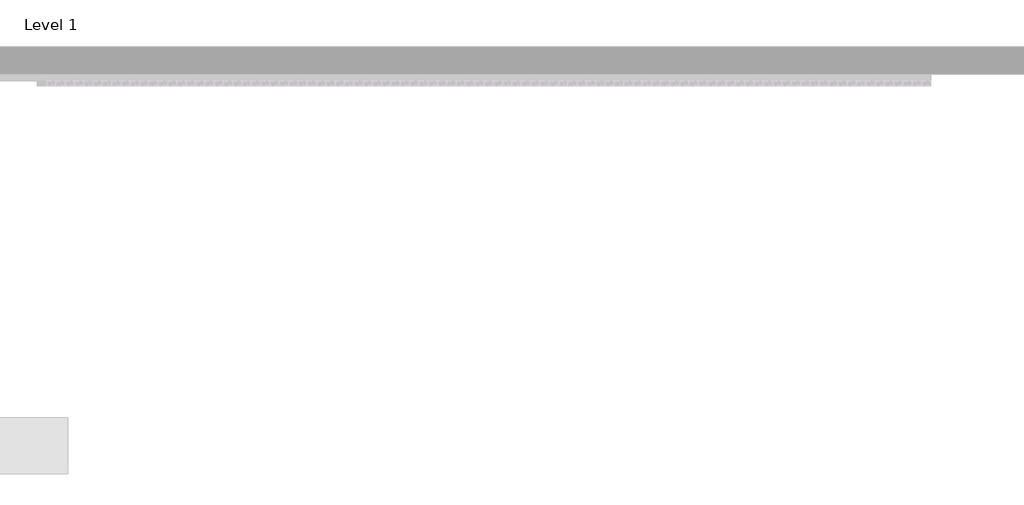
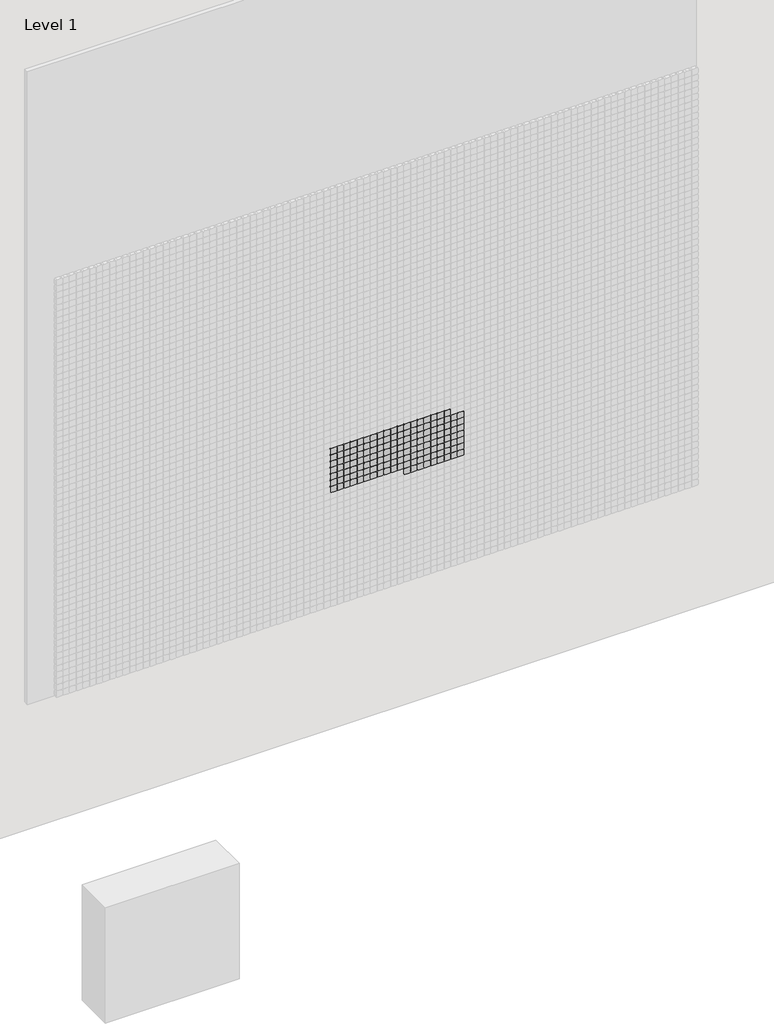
# One storey, part 45 of 71: 147 proxies.
"""IFC4 building model written with IfcOpenShell, lengths in millimetres."""

from ifc_helpers import new_model, si_unit, origin, place, context, project, spatial, transform, mapped, element, save
from components import generic_models_afde289c

model = new_model("IFC4")

# Units and contexts
model_context = context("Model", 3, world=origin())
ifc_project = project(units=[si_unit("LENGTHUNIT", "METRE", prefix="MILLI")], contexts=[model_context])

# Site, building, storey
site = spatial("IfcSite", under=ifc_project)
building = spatial("IfcBuilding", under=site)
storey = spatial("IfcBuildingStorey", under=building, Name="Level 1", Elevation=0.0)

# Proxies
placement = place(None, origin())
generic_models_shape = generic_models_afde289c(model_context)
element("IfcBuildingElementProxy", 1, Name="Pixel_M : Pixel_M", ObjectType="Pixel_M : Pixel_M", at=placement, inside=storey, context=model_context, shape_type="MappedRepresentation", body=[
    mapped(generic_models_shape, transform((7862.4280941, -75.0, 2216.3566215), x_axis=(1.0, 0.0, 0.0), y_axis=(0.0, 0.0, 1.0), z_axis=(0.0, -1.0, 0.0))),
])
element("IfcBuildingElementProxy", 2, Name="Pixel_M : Pixel_M", ObjectType="Pixel_M : Pixel_M", at=placement, inside=storey, context=model_context, shape_type="MappedRepresentation", body=[
    mapped(generic_models_shape, transform((7812.4280941, -75.0, 2216.3566215), x_axis=(1.0, 0.0, 0.0), y_axis=(0.0, 0.0, 1.0), z_axis=(0.0, -1.0, 0.0))),
])
element("IfcBuildingElementProxy", 3, Name="Pixel_M : Pixel_M", ObjectType="Pixel_M : Pixel_M", at=placement, inside=storey, context=model_context, shape_type="MappedRepresentation", body=[
    mapped(generic_models_shape, transform((7762.4280941, -75.0, 2216.3566215), x_axis=(1.0, 0.0, 0.0), y_axis=(0.0, 0.0, 1.0), z_axis=(0.0, -1.0, 0.0))),
])
element("IfcBuildingElementProxy", 4, Name="Pixel_M : Pixel_M", ObjectType="Pixel_M : Pixel_M", at=placement, inside=storey, context=model_context, shape_type="MappedRepresentation", body=[
    mapped(generic_models_shape, transform((7712.4280941, -75.0, 2216.3566215), x_axis=(1.0, 0.0, 0.0), y_axis=(0.0, 0.0, 1.0), z_axis=(0.0, -1.0, 0.0))),
])
element("IfcBuildingElementProxy", 5, Name="Pixel_M : Pixel_M", ObjectType="Pixel_M : Pixel_M", at=placement, inside=storey, context=model_context, shape_type="MappedRepresentation", body=[
    mapped(generic_models_shape, transform((7662.4280941, -75.0, 2216.3566215), x_axis=(1.0, 0.0, 0.0), y_axis=(0.0, 0.0, 1.0), z_axis=(0.0, -1.0, 0.0))),
])
element("IfcBuildingElementProxy", 6, Name="Pixel_M : Pixel_M", ObjectType="Pixel_M : Pixel_M", at=placement, inside=storey, context=model_context, shape_type="MappedRepresentation", body=[
    mapped(generic_models_shape, transform((7612.4280941, -75.0, 2216.3566215), x_axis=(1.0, 0.0, 0.0), y_axis=(0.0, 0.0, 1.0), z_axis=(0.0, -1.0, 0.0))),
])
element("IfcBuildingElementProxy", 7, Name="Pixel_M : Pixel_M", ObjectType="Pixel_M : Pixel_M", at=placement, inside=storey, context=model_context, shape_type="MappedRepresentation", body=[
    mapped(generic_models_shape, transform((7562.4280941, -75.0, 2216.3566215), x_axis=(1.0, 0.0, 0.0), y_axis=(0.0, 0.0, 1.0), z_axis=(0.0, -1.0, 0.0))),
])
element("IfcBuildingElementProxy", 8, Name="Pixel_M : Pixel_M", ObjectType="Pixel_M : Pixel_M", at=placement, inside=storey, context=model_context, shape_type="MappedRepresentation", body=[
    mapped(generic_models_shape, transform((7512.4280941, -75.0, 2216.3566215), x_axis=(1.0, 0.0, 0.0), y_axis=(0.0, 0.0, 1.0), z_axis=(0.0, -1.0, 0.0))),
])
element("IfcBuildingElementProxy", 9, Name="Pixel_M : Pixel_M", ObjectType="Pixel_M : Pixel_M", at=placement, inside=storey, context=model_context, shape_type="MappedRepresentation", body=[
    mapped(generic_models_shape, transform((7462.4280941, -75.0, 2216.3566215), x_axis=(1.0, 0.0, 0.0), y_axis=(0.0, 0.0, 1.0), z_axis=(0.0, -1.0, 0.0))),
])
element("IfcBuildingElementProxy", 10, Name="Pixel_M : Pixel_M", ObjectType="Pixel_M : Pixel_M", at=placement, inside=storey, context=model_context, shape_type="MappedRepresentation", body=[
    mapped(generic_models_shape, transform((7412.4280941, -75.0, 2216.3566215), x_axis=(1.0, 0.0, 0.0), y_axis=(0.0, 0.0, 1.0), z_axis=(0.0, -1.0, 0.0))),
])
element("IfcBuildingElementProxy", 11, Name="Pixel_M : Pixel_M", ObjectType="Pixel_M : Pixel_M", at=placement, inside=storey, context=model_context, shape_type="MappedRepresentation", body=[
    mapped(generic_models_shape, transform((7362.4280941, -75.0, 2216.3566215), x_axis=(1.0, 0.0, 0.0), y_axis=(0.0, 0.0, 1.0), z_axis=(0.0, -1.0, 0.0))),
])
element("IfcBuildingElementProxy", 12, Name="Pixel_M : Pixel_M", ObjectType="Pixel_M : Pixel_M", at=placement, inside=storey, context=model_context, shape_type="MappedRepresentation", body=[
    mapped(generic_models_shape, transform((7312.4280941, -75.0, 2216.3566215), x_axis=(1.0, 0.0, 0.0), y_axis=(0.0, 0.0, 1.0), z_axis=(0.0, -1.0, 0.0))),
])
element("IfcBuildingElementProxy", 13, Name="Pixel_M : Pixel_M", ObjectType="Pixel_M : Pixel_M", at=placement, inside=storey, context=model_context, shape_type="MappedRepresentation", body=[
    mapped(generic_models_shape, transform((7262.4280941, -75.0, 2216.3566215), x_axis=(1.0, 0.0, 0.0), y_axis=(0.0, 0.0, 1.0), z_axis=(0.0, -1.0, 0.0))),
])
element("IfcBuildingElementProxy", 14, Name="Pixel_M : Pixel_M", ObjectType="Pixel_M : Pixel_M", at=placement, inside=storey, context=model_context, shape_type="MappedRepresentation", body=[
    mapped(generic_models_shape, transform((7212.4280941, -75.0, 2216.3566215), x_axis=(1.0, 0.0, 0.0), y_axis=(0.0, 0.0, 1.0), z_axis=(0.0, -1.0, 0.0))),
])
element("IfcBuildingElementProxy", 15, Name="Pixel_M : Pixel_M", ObjectType="Pixel_M : Pixel_M", at=placement, inside=storey, context=model_context, shape_type="MappedRepresentation", body=[
    mapped(generic_models_shape, transform((7162.4280941, -75.0, 2216.3566215), x_axis=(1.0, 0.0, 0.0), y_axis=(0.0, 0.0, 1.0), z_axis=(0.0, -1.0, 0.0))),
])
element("IfcBuildingElementProxy", 16, Name="Pixel_M : Pixel_M", ObjectType="Pixel_M : Pixel_M", at=placement, inside=storey, context=model_context, shape_type="MappedRepresentation", body=[
    mapped(generic_models_shape, transform((7112.4280941, -75.0, 2216.3566215), x_axis=(1.0, 0.0, 0.0), y_axis=(0.0, 0.0, 1.0), z_axis=(0.0, -1.0, 0.0))),
])
element("IfcBuildingElementProxy", 17, Name="Pixel_M : Pixel_M", ObjectType="Pixel_M : Pixel_M", at=placement, inside=storey, context=model_context, shape_type="MappedRepresentation", body=[
    mapped(generic_models_shape, transform((7062.4280941, -75.0, 2216.3566215), x_axis=(1.0, 0.0, 0.0), y_axis=(0.0, 0.0, 1.0), z_axis=(0.0, -1.0, 0.0))),
])
element("IfcBuildingElementProxy", 18, Name="Pixel_M : Pixel_M", ObjectType="Pixel_M : Pixel_M", at=placement, inside=storey, context=model_context, shape_type="MappedRepresentation", body=[
    mapped(generic_models_shape, transform((7012.4280941, -75.0, 2216.3566215), x_axis=(1.0, 0.0, 0.0), y_axis=(0.0, 0.0, 1.0), z_axis=(0.0, -1.0, 0.0))),
])
element("IfcBuildingElementProxy", 19, Name="Pixel_M : Pixel_M", ObjectType="Pixel_M : Pixel_M", at=placement, inside=storey, context=model_context, shape_type="MappedRepresentation", body=[
    mapped(generic_models_shape, transform((7962.4280941, -75.0, 2166.3566215), x_axis=(1.0, 0.0, 0.0), y_axis=(0.0, 0.0, 1.0), z_axis=(0.0, -1.0, 0.0))),
])
element("IfcBuildingElementProxy", 20, Name="Pixel_M : Pixel_M", ObjectType="Pixel_M : Pixel_M", at=placement, inside=storey, context=model_context, shape_type="MappedRepresentation", body=[
    mapped(generic_models_shape, transform((7912.4280941, -75.0, 2166.3566215), x_axis=(1.0, 0.0, 0.0), y_axis=(0.0, 0.0, 1.0), z_axis=(0.0, -1.0, 0.0))),
])
element("IfcBuildingElementProxy", 21, Name="Pixel_M : Pixel_M", ObjectType="Pixel_M : Pixel_M", at=placement, inside=storey, context=model_context, shape_type="MappedRepresentation", body=[
    mapped(generic_models_shape, transform((7862.4280941, -75.0, 2166.3566215), x_axis=(1.0, 0.0, 0.0), y_axis=(0.0, 0.0, 1.0), z_axis=(0.0, -1.0, 0.0))),
])
element("IfcBuildingElementProxy", 22, Name="Pixel_M : Pixel_M", ObjectType="Pixel_M : Pixel_M", at=placement, inside=storey, context=model_context, shape_type="MappedRepresentation", body=[
    mapped(generic_models_shape, transform((7812.4280941, -75.0, 2166.3566215), x_axis=(1.0, 0.0, 0.0), y_axis=(0.0, 0.0, 1.0), z_axis=(0.0, -1.0, 0.0))),
])
element("IfcBuildingElementProxy", 23, Name="Pixel_M : Pixel_M", ObjectType="Pixel_M : Pixel_M", at=placement, inside=storey, context=model_context, shape_type="MappedRepresentation", body=[
    mapped(generic_models_shape, transform((7762.4280941, -75.0, 2166.3566215), x_axis=(1.0, 0.0, 0.0), y_axis=(0.0, 0.0, 1.0), z_axis=(0.0, -1.0, 0.0))),
])
element("IfcBuildingElementProxy", 24, Name="Pixel_M : Pixel_M", ObjectType="Pixel_M : Pixel_M", at=placement, inside=storey, context=model_context, shape_type="MappedRepresentation", body=[
    mapped(generic_models_shape, transform((7712.4280941, -75.0, 2166.3566215), x_axis=(1.0, 0.0, 0.0), y_axis=(0.0, 0.0, 1.0), z_axis=(0.0, -1.0, 0.0))),
])
element("IfcBuildingElementProxy", 25, Name="Pixel_M : Pixel_M", ObjectType="Pixel_M : Pixel_M", at=placement, inside=storey, context=model_context, shape_type="MappedRepresentation", body=[
    mapped(generic_models_shape, transform((7662.4280941, -75.0, 2166.3566215), x_axis=(1.0, 0.0, 0.0), y_axis=(0.0, 0.0, 1.0), z_axis=(0.0, -1.0, 0.0))),
])
element("IfcBuildingElementProxy", 26, Name="Pixel_M : Pixel_M", ObjectType="Pixel_M : Pixel_M", at=placement, inside=storey, context=model_context, shape_type="MappedRepresentation", body=[
    mapped(generic_models_shape, transform((7612.4280941, -75.0, 2166.3566215), x_axis=(1.0, 0.0, 0.0), y_axis=(0.0, 0.0, 1.0), z_axis=(0.0, -1.0, 0.0))),
])
element("IfcBuildingElementProxy", 27, Name="Pixel_M : Pixel_M", ObjectType="Pixel_M : Pixel_M", at=placement, inside=storey, context=model_context, shape_type="MappedRepresentation", body=[
    mapped(generic_models_shape, transform((7562.4280941, -75.0, 2166.3566215), x_axis=(1.0, 0.0, 0.0), y_axis=(0.0, 0.0, 1.0), z_axis=(0.0, -1.0, 0.0))),
])
element("IfcBuildingElementProxy", 28, Name="Pixel_M : Pixel_M", ObjectType="Pixel_M : Pixel_M", at=placement, inside=storey, context=model_context, shape_type="MappedRepresentation", body=[
    mapped(generic_models_shape, transform((7512.4280941, -75.0, 2166.3566215), x_axis=(1.0, 0.0, 0.0), y_axis=(0.0, 0.0, 1.0), z_axis=(0.0, -1.0, 0.0))),
])
element("IfcBuildingElementProxy", 29, Name="Pixel_M : Pixel_M", ObjectType="Pixel_M : Pixel_M", at=placement, inside=storey, context=model_context, shape_type="MappedRepresentation", body=[
    mapped(generic_models_shape, transform((7462.4280941, -75.0, 2166.3566215), x_axis=(1.0, 0.0, 0.0), y_axis=(0.0, 0.0, 1.0), z_axis=(0.0, -1.0, 0.0))),
])
element("IfcBuildingElementProxy", 30, Name="Pixel_M : Pixel_M", ObjectType="Pixel_M : Pixel_M", at=placement, inside=storey, context=model_context, shape_type="MappedRepresentation", body=[
    mapped(generic_models_shape, transform((7412.4280941, -75.0, 2166.3566215), x_axis=(1.0, 0.0, 0.0), y_axis=(0.0, 0.0, 1.0), z_axis=(0.0, -1.0, 0.0))),
])
element("IfcBuildingElementProxy", 31, Name="Pixel_M : Pixel_M", ObjectType="Pixel_M : Pixel_M", at=placement, inside=storey, context=model_context, shape_type="MappedRepresentation", body=[
    mapped(generic_models_shape, transform((7362.4280941, -75.0, 2166.3566215), x_axis=(1.0, 0.0, 0.0), y_axis=(0.0, 0.0, 1.0), z_axis=(0.0, -1.0, 0.0))),
])
element("IfcBuildingElementProxy", 32, Name="Pixel_M : Pixel_M", ObjectType="Pixel_M : Pixel_M", at=placement, inside=storey, context=model_context, shape_type="MappedRepresentation", body=[
    mapped(generic_models_shape, transform((7312.4280941, -75.0, 2166.3566215), x_axis=(1.0, 0.0, 0.0), y_axis=(0.0, 0.0, 1.0), z_axis=(0.0, -1.0, 0.0))),
])
element("IfcBuildingElementProxy", 33, Name="Pixel_M : Pixel_M", ObjectType="Pixel_M : Pixel_M", at=placement, inside=storey, context=model_context, shape_type="MappedRepresentation", body=[
    mapped(generic_models_shape, transform((7262.4280941, -75.0, 2166.3566215), x_axis=(1.0, 0.0, 0.0), y_axis=(0.0, 0.0, 1.0), z_axis=(0.0, -1.0, 0.0))),
])
element("IfcBuildingElementProxy", 34, Name="Pixel_M : Pixel_M", ObjectType="Pixel_M : Pixel_M", at=placement, inside=storey, context=model_context, shape_type="MappedRepresentation", body=[
    mapped(generic_models_shape, transform((7212.4280941, -75.0, 2166.3566215), x_axis=(1.0, 0.0, 0.0), y_axis=(0.0, 0.0, 1.0), z_axis=(0.0, -1.0, 0.0))),
])
element("IfcBuildingElementProxy", 35, Name="Pixel_M : Pixel_M", ObjectType="Pixel_M : Pixel_M", at=placement, inside=storey, context=model_context, shape_type="MappedRepresentation", body=[
    mapped(generic_models_shape, transform((7162.4280941, -75.0, 2166.3566215), x_axis=(1.0, 0.0, 0.0), y_axis=(0.0, 0.0, 1.0), z_axis=(0.0, -1.0, 0.0))),
])
element("IfcBuildingElementProxy", 36, Name="Pixel_M : Pixel_M", ObjectType="Pixel_M : Pixel_M", at=placement, inside=storey, context=model_context, shape_type="MappedRepresentation", body=[
    mapped(generic_models_shape, transform((7112.4280941, -75.0, 2166.3566215), x_axis=(1.0, 0.0, 0.0), y_axis=(0.0, 0.0, 1.0), z_axis=(0.0, -1.0, 0.0))),
])
element("IfcBuildingElementProxy", 37, Name="Pixel_M : Pixel_M", ObjectType="Pixel_M : Pixel_M", at=placement, inside=storey, context=model_context, shape_type="MappedRepresentation", body=[
    mapped(generic_models_shape, transform((7062.4280941, -75.0, 2166.3566215), x_axis=(1.0, 0.0, 0.0), y_axis=(0.0, 0.0, 1.0), z_axis=(0.0, -1.0, 0.0))),
])
element("IfcBuildingElementProxy", 38, Name="Pixel_M : Pixel_M", ObjectType="Pixel_M : Pixel_M", at=placement, inside=storey, context=model_context, shape_type="MappedRepresentation", body=[
    mapped(generic_models_shape, transform((7012.4280941, -75.0, 2166.3566215), x_axis=(1.0, 0.0, 0.0), y_axis=(0.0, 0.0, 1.0), z_axis=(0.0, -1.0, 0.0))),
])
element("IfcBuildingElementProxy", 39, Name="Pixel_M : Pixel_M", ObjectType="Pixel_M : Pixel_M", at=placement, inside=storey, context=model_context, shape_type="MappedRepresentation", body=[
    mapped(generic_models_shape, transform((7962.4280941, -75.0, 2116.3566215), x_axis=(1.0, 0.0, 0.0), y_axis=(0.0, 0.0, 1.0), z_axis=(0.0, -1.0, 0.0))),
])
element("IfcBuildingElementProxy", 40, Name="Pixel_M : Pixel_M", ObjectType="Pixel_M : Pixel_M", at=placement, inside=storey, context=model_context, shape_type="MappedRepresentation", body=[
    mapped(generic_models_shape, transform((7912.4280941, -75.0, 2116.3566215), x_axis=(1.0, 0.0, 0.0), y_axis=(0.0, 0.0, 1.0), z_axis=(0.0, -1.0, 0.0))),
])
element("IfcBuildingElementProxy", 41, Name="Pixel_M : Pixel_M", ObjectType="Pixel_M : Pixel_M", at=placement, inside=storey, context=model_context, shape_type="MappedRepresentation", body=[
    mapped(generic_models_shape, transform((7862.4280941, -75.0, 2116.3566215), x_axis=(1.0, 0.0, 0.0), y_axis=(0.0, 0.0, 1.0), z_axis=(0.0, -1.0, 0.0))),
])
element("IfcBuildingElementProxy", 42, Name="Pixel_M : Pixel_M", ObjectType="Pixel_M : Pixel_M", at=placement, inside=storey, context=model_context, shape_type="MappedRepresentation", body=[
    mapped(generic_models_shape, transform((7812.4280941, -75.0, 2116.3566215), x_axis=(1.0, 0.0, 0.0), y_axis=(0.0, 0.0, 1.0), z_axis=(0.0, -1.0, 0.0))),
])
element("IfcBuildingElementProxy", 43, Name="Pixel_M : Pixel_M", ObjectType="Pixel_M : Pixel_M", at=placement, inside=storey, context=model_context, shape_type="MappedRepresentation", body=[
    mapped(generic_models_shape, transform((7762.4280941, -75.0, 2116.3566215), x_axis=(1.0, 0.0, 0.0), y_axis=(0.0, 0.0, 1.0), z_axis=(0.0, -1.0, 0.0))),
])
element("IfcBuildingElementProxy", 44, Name="Pixel_M : Pixel_M", ObjectType="Pixel_M : Pixel_M", at=placement, inside=storey, context=model_context, shape_type="MappedRepresentation", body=[
    mapped(generic_models_shape, transform((7712.4280941, -75.0, 2116.3566215), x_axis=(1.0, 0.0, 0.0), y_axis=(0.0, 0.0, 1.0), z_axis=(0.0, -1.0, 0.0))),
])
element("IfcBuildingElementProxy", 45, Name="Pixel_M : Pixel_M", ObjectType="Pixel_M : Pixel_M", at=placement, inside=storey, context=model_context, shape_type="MappedRepresentation", body=[
    mapped(generic_models_shape, transform((7662.4280941, -75.0, 2116.3566215), x_axis=(1.0, 0.0, 0.0), y_axis=(0.0, 0.0, 1.0), z_axis=(0.0, -1.0, 0.0))),
])
element("IfcBuildingElementProxy", 46, Name="Pixel_M : Pixel_M", ObjectType="Pixel_M : Pixel_M", at=placement, inside=storey, context=model_context, shape_type="MappedRepresentation", body=[
    mapped(generic_models_shape, transform((7612.4280941, -75.0, 2116.3566215), x_axis=(1.0, 0.0, 0.0), y_axis=(0.0, 0.0, 1.0), z_axis=(0.0, -1.0, 0.0))),
])
element("IfcBuildingElementProxy", 47, Name="Pixel_M : Pixel_M", ObjectType="Pixel_M : Pixel_M", at=placement, inside=storey, context=model_context, shape_type="MappedRepresentation", body=[
    mapped(generic_models_shape, transform((7562.4280941, -75.0, 2116.3566215), x_axis=(1.0, 0.0, 0.0), y_axis=(0.0, 0.0, 1.0), z_axis=(0.0, -1.0, 0.0))),
])
element("IfcBuildingElementProxy", 48, Name="Pixel_M : Pixel_M", ObjectType="Pixel_M : Pixel_M", at=placement, inside=storey, context=model_context, shape_type="MappedRepresentation", body=[
    mapped(generic_models_shape, transform((7512.4280941, -75.0, 2116.3566215), x_axis=(1.0, 0.0, 0.0), y_axis=(0.0, 0.0, 1.0), z_axis=(0.0, -1.0, 0.0))),
])
element("IfcBuildingElementProxy", 49, Name="Pixel_M : Pixel_M", ObjectType="Pixel_M : Pixel_M", at=placement, inside=storey, context=model_context, shape_type="MappedRepresentation", body=[
    mapped(generic_models_shape, transform((7462.4280941, -75.0, 2116.3566215), x_axis=(1.0, 0.0, 0.0), y_axis=(0.0, 0.0, 1.0), z_axis=(0.0, -1.0, 0.0))),
])
element("IfcBuildingElementProxy", 50, Name="Pixel_M : Pixel_M", ObjectType="Pixel_M : Pixel_M", at=placement, inside=storey, context=model_context, shape_type="MappedRepresentation", body=[
    mapped(generic_models_shape, transform((7412.4280941, -75.0, 2116.3566215), x_axis=(1.0, 0.0, 0.0), y_axis=(0.0, 0.0, 1.0), z_axis=(0.0, -1.0, 0.0))),
])
element("IfcBuildingElementProxy", 51, Name="Pixel_M : Pixel_M", ObjectType="Pixel_M : Pixel_M", at=placement, inside=storey, context=model_context, shape_type="MappedRepresentation", body=[
    mapped(generic_models_shape, transform((7362.4280941, -75.0, 2116.3566215), x_axis=(1.0, 0.0, 0.0), y_axis=(0.0, 0.0, 1.0), z_axis=(0.0, -1.0, 0.0))),
])
element("IfcBuildingElementProxy", 52, Name="Pixel_M : Pixel_M", ObjectType="Pixel_M : Pixel_M", at=placement, inside=storey, context=model_context, shape_type="MappedRepresentation", body=[
    mapped(generic_models_shape, transform((7312.4280941, -75.0, 2116.3566215), x_axis=(1.0, 0.0, 0.0), y_axis=(0.0, 0.0, 1.0), z_axis=(0.0, -1.0, 0.0))),
])
element("IfcBuildingElementProxy", 53, Name="Pixel_M : Pixel_M", ObjectType="Pixel_M : Pixel_M", at=placement, inside=storey, context=model_context, shape_type="MappedRepresentation", body=[
    mapped(generic_models_shape, transform((7262.4280941, -75.0, 2116.3566215), x_axis=(1.0, 0.0, 0.0), y_axis=(0.0, 0.0, 1.0), z_axis=(0.0, -1.0, 0.0))),
])
element("IfcBuildingElementProxy", 54, Name="Pixel_M : Pixel_M", ObjectType="Pixel_M : Pixel_M", at=placement, inside=storey, context=model_context, shape_type="MappedRepresentation", body=[
    mapped(generic_models_shape, transform((7212.4280941, -75.0, 2116.3566215), x_axis=(1.0, 0.0, 0.0), y_axis=(0.0, 0.0, 1.0), z_axis=(0.0, -1.0, 0.0))),
])
element("IfcBuildingElementProxy", 55, Name="Pixel_M : Pixel_M", ObjectType="Pixel_M : Pixel_M", at=placement, inside=storey, context=model_context, shape_type="MappedRepresentation", body=[
    mapped(generic_models_shape, transform((7162.4280941, -75.0, 2116.3566215), x_axis=(1.0, 0.0, 0.0), y_axis=(0.0, 0.0, 1.0), z_axis=(0.0, -1.0, 0.0))),
])
element("IfcBuildingElementProxy", 56, Name="Pixel_M : Pixel_M", ObjectType="Pixel_M : Pixel_M", at=placement, inside=storey, context=model_context, shape_type="MappedRepresentation", body=[
    mapped(generic_models_shape, transform((7112.4280941, -75.0, 2116.3566215), x_axis=(1.0, 0.0, 0.0), y_axis=(0.0, 0.0, 1.0), z_axis=(0.0, -1.0, 0.0))),
])
element("IfcBuildingElementProxy", 57, Name="Pixel_M : Pixel_M", ObjectType="Pixel_M : Pixel_M", at=placement, inside=storey, context=model_context, shape_type="MappedRepresentation", body=[
    mapped(generic_models_shape, transform((7062.4280941, -75.0, 2116.3566215), x_axis=(1.0, 0.0, 0.0), y_axis=(0.0, 0.0, 1.0), z_axis=(0.0, -1.0, 0.0))),
])
element("IfcBuildingElementProxy", 58, Name="Pixel_M : Pixel_M", ObjectType="Pixel_M : Pixel_M", at=placement, inside=storey, context=model_context, shape_type="MappedRepresentation", body=[
    mapped(generic_models_shape, transform((7012.4280941, -75.0, 2116.3566215), x_axis=(1.0, 0.0, 0.0), y_axis=(0.0, 0.0, 1.0), z_axis=(0.0, -1.0, 0.0))),
])
element("IfcBuildingElementProxy", 59, Name="Pixel_M : Pixel_M", ObjectType="Pixel_M : Pixel_M", at=placement, inside=storey, context=model_context, shape_type="MappedRepresentation", body=[
    mapped(generic_models_shape, transform((7962.4280941, -75.0, 2066.3566215), x_axis=(1.0, 0.0, 0.0), y_axis=(0.0, 0.0, 1.0), z_axis=(0.0, -1.0, 0.0))),
])
element("IfcBuildingElementProxy", 60, Name="Pixel_M : Pixel_M", ObjectType="Pixel_M : Pixel_M", at=placement, inside=storey, context=model_context, shape_type="MappedRepresentation", body=[
    mapped(generic_models_shape, transform((7912.4280941, -75.0, 2066.3566215), x_axis=(1.0, 0.0, 0.0), y_axis=(0.0, 0.0, 1.0), z_axis=(0.0, -1.0, 0.0))),
])
element("IfcBuildingElementProxy", 61, Name="Pixel_M : Pixel_M", ObjectType="Pixel_M : Pixel_M", at=placement, inside=storey, context=model_context, shape_type="MappedRepresentation", body=[
    mapped(generic_models_shape, transform((7862.4280941, -75.0, 2066.3566215), x_axis=(1.0, 0.0, 0.0), y_axis=(0.0, 0.0, 1.0), z_axis=(0.0, -1.0, 0.0))),
])
element("IfcBuildingElementProxy", 62, Name="Pixel_M : Pixel_M", ObjectType="Pixel_M : Pixel_M", at=placement, inside=storey, context=model_context, shape_type="MappedRepresentation", body=[
    mapped(generic_models_shape, transform((7812.4280941, -75.0, 2066.3566215), x_axis=(1.0, 0.0, 0.0), y_axis=(0.0, 0.0, 1.0), z_axis=(0.0, -1.0, 0.0))),
])
element("IfcBuildingElementProxy", 63, Name="Pixel_M : Pixel_M", ObjectType="Pixel_M : Pixel_M", at=placement, inside=storey, context=model_context, shape_type="MappedRepresentation", body=[
    mapped(generic_models_shape, transform((7762.4280941, -75.0, 2066.3566215), x_axis=(1.0, 0.0, 0.0), y_axis=(0.0, 0.0, 1.0), z_axis=(0.0, -1.0, 0.0))),
])
element("IfcBuildingElementProxy", 64, Name="Pixel_M : Pixel_M", ObjectType="Pixel_M : Pixel_M", at=placement, inside=storey, context=model_context, shape_type="MappedRepresentation", body=[
    mapped(generic_models_shape, transform((7712.4280941, -75.0, 2066.3566215), x_axis=(1.0, 0.0, 0.0), y_axis=(0.0, 0.0, 1.0), z_axis=(0.0, -1.0, 0.0))),
])
element("IfcBuildingElementProxy", 65, Name="Pixel_M : Pixel_M", ObjectType="Pixel_M : Pixel_M", at=placement, inside=storey, context=model_context, shape_type="MappedRepresentation", body=[
    mapped(generic_models_shape, transform((7662.4280941, -75.0, 2066.3566215), x_axis=(1.0, 0.0, 0.0), y_axis=(0.0, 0.0, 1.0), z_axis=(0.0, -1.0, 0.0))),
])
element("IfcBuildingElementProxy", 66, Name="Pixel_M : Pixel_M", ObjectType="Pixel_M : Pixel_M", at=placement, inside=storey, context=model_context, shape_type="MappedRepresentation", body=[
    mapped(generic_models_shape, transform((7612.4280941, -75.0, 2066.3566215), x_axis=(1.0, 0.0, 0.0), y_axis=(0.0, 0.0, 1.0), z_axis=(0.0, -1.0, 0.0))),
])
element("IfcBuildingElementProxy", 67, Name="Pixel_M : Pixel_M", ObjectType="Pixel_M : Pixel_M", at=placement, inside=storey, context=model_context, shape_type="MappedRepresentation", body=[
    mapped(generic_models_shape, transform((7562.4280941, -75.0, 2066.3566215), x_axis=(1.0, 0.0, 0.0), y_axis=(0.0, 0.0, 1.0), z_axis=(0.0, -1.0, 0.0))),
])
element("IfcBuildingElementProxy", 68, Name="Pixel_M : Pixel_M", ObjectType="Pixel_M : Pixel_M", at=placement, inside=storey, context=model_context, shape_type="MappedRepresentation", body=[
    mapped(generic_models_shape, transform((7512.4280941, -75.0, 2066.3566215), x_axis=(1.0, 0.0, 0.0), y_axis=(0.0, 0.0, 1.0), z_axis=(0.0, -1.0, 0.0))),
])
element("IfcBuildingElementProxy", 69, Name="Pixel_M : Pixel_M", ObjectType="Pixel_M : Pixel_M", at=placement, inside=storey, context=model_context, shape_type="MappedRepresentation", body=[
    mapped(generic_models_shape, transform((7462.4280941, -75.0, 2066.3566215), x_axis=(1.0, 0.0, 0.0), y_axis=(0.0, 0.0, 1.0), z_axis=(0.0, -1.0, 0.0))),
])
element("IfcBuildingElementProxy", 70, Name="Pixel_M : Pixel_M", ObjectType="Pixel_M : Pixel_M", at=placement, inside=storey, context=model_context, shape_type="MappedRepresentation", body=[
    mapped(generic_models_shape, transform((7412.4280941, -75.0, 2066.3566215), x_axis=(1.0, 0.0, 0.0), y_axis=(0.0, 0.0, 1.0), z_axis=(0.0, -1.0, 0.0))),
])
element("IfcBuildingElementProxy", 71, Name="Pixel_M : Pixel_M", ObjectType="Pixel_M : Pixel_M", at=placement, inside=storey, context=model_context, shape_type="MappedRepresentation", body=[
    mapped(generic_models_shape, transform((7362.4280941, -75.0, 2066.3566215), x_axis=(1.0, 0.0, 0.0), y_axis=(0.0, 0.0, 1.0), z_axis=(0.0, -1.0, 0.0))),
])
element("IfcBuildingElementProxy", 72, Name="Pixel_M : Pixel_M", ObjectType="Pixel_M : Pixel_M", at=placement, inside=storey, context=model_context, shape_type="MappedRepresentation", body=[
    mapped(generic_models_shape, transform((7312.4280941, -75.0, 2066.3566215), x_axis=(1.0, 0.0, 0.0), y_axis=(0.0, 0.0, 1.0), z_axis=(0.0, -1.0, 0.0))),
])
element("IfcBuildingElementProxy", 73, Name="Pixel_M : Pixel_M", ObjectType="Pixel_M : Pixel_M", at=placement, inside=storey, context=model_context, shape_type="MappedRepresentation", body=[
    mapped(generic_models_shape, transform((7262.4280941, -75.0, 2066.3566215), x_axis=(1.0, 0.0, 0.0), y_axis=(0.0, 0.0, 1.0), z_axis=(0.0, -1.0, 0.0))),
])
element("IfcBuildingElementProxy", 74, Name="Pixel_M : Pixel_M", ObjectType="Pixel_M : Pixel_M", at=placement, inside=storey, context=model_context, shape_type="MappedRepresentation", body=[
    mapped(generic_models_shape, transform((7212.4280941, -75.0, 2066.3566215), x_axis=(1.0, 0.0, 0.0), y_axis=(0.0, 0.0, 1.0), z_axis=(0.0, -1.0, 0.0))),
])
element("IfcBuildingElementProxy", 75, Name="Pixel_M : Pixel_M", ObjectType="Pixel_M : Pixel_M", at=placement, inside=storey, context=model_context, shape_type="MappedRepresentation", body=[
    mapped(generic_models_shape, transform((7162.4280941, -75.0, 2066.3566215), x_axis=(1.0, 0.0, 0.0), y_axis=(0.0, 0.0, 1.0), z_axis=(0.0, -1.0, 0.0))),
])
element("IfcBuildingElementProxy", 76, Name="Pixel_M : Pixel_M", ObjectType="Pixel_M : Pixel_M", at=placement, inside=storey, context=model_context, shape_type="MappedRepresentation", body=[
    mapped(generic_models_shape, transform((7112.4280941, -75.0, 2066.3566215), x_axis=(1.0, 0.0, 0.0), y_axis=(0.0, 0.0, 1.0), z_axis=(0.0, -1.0, 0.0))),
])
element("IfcBuildingElementProxy", 77, Name="Pixel_M : Pixel_M", ObjectType="Pixel_M : Pixel_M", at=placement, inside=storey, context=model_context, shape_type="MappedRepresentation", body=[
    mapped(generic_models_shape, transform((7062.4280941, -75.0, 2066.3566215), x_axis=(1.0, 0.0, 0.0), y_axis=(0.0, 0.0, 1.0), z_axis=(0.0, -1.0, 0.0))),
])
element("IfcBuildingElementProxy", 78, Name="Pixel_M : Pixel_M", ObjectType="Pixel_M : Pixel_M", at=placement, inside=storey, context=model_context, shape_type="MappedRepresentation", body=[
    mapped(generic_models_shape, transform((7012.4280941, -75.0, 2066.3566215), x_axis=(1.0, 0.0, 0.0), y_axis=(0.0, 0.0, 1.0), z_axis=(0.0, -1.0, 0.0))),
])
element("IfcBuildingElementProxy", 79, Name="Pixel_M : Pixel_M", ObjectType="Pixel_M : Pixel_M", at=placement, inside=storey, context=model_context, shape_type="MappedRepresentation", body=[
    mapped(generic_models_shape, transform((7962.4280941, -75.0, 2016.3566215), x_axis=(1.0, 0.0, 0.0), y_axis=(0.0, 0.0, 1.0), z_axis=(0.0, -1.0, 0.0))),
])
element("IfcBuildingElementProxy", 80, Name="Pixel_M : Pixel_M", ObjectType="Pixel_M : Pixel_M", at=placement, inside=storey, context=model_context, shape_type="MappedRepresentation", body=[
    mapped(generic_models_shape, transform((7912.4280941, -75.0, 2016.3566215), x_axis=(1.0, 0.0, 0.0), y_axis=(0.0, 0.0, 1.0), z_axis=(0.0, -1.0, 0.0))),
])
element("IfcBuildingElementProxy", 81, Name="Pixel_M : Pixel_M", ObjectType="Pixel_M : Pixel_M", at=placement, inside=storey, context=model_context, shape_type="MappedRepresentation", body=[
    mapped(generic_models_shape, transform((7862.4280941, -75.0, 2016.3566215), x_axis=(1.0, 0.0, 0.0), y_axis=(0.0, 0.0, 1.0), z_axis=(0.0, -1.0, 0.0))),
])
element("IfcBuildingElementProxy", 82, Name="Pixel_M : Pixel_M", ObjectType="Pixel_M : Pixel_M", at=placement, inside=storey, context=model_context, shape_type="MappedRepresentation", body=[
    mapped(generic_models_shape, transform((7812.4280941, -75.0, 2016.3566215), x_axis=(1.0, 0.0, 0.0), y_axis=(0.0, 0.0, 1.0), z_axis=(0.0, -1.0, 0.0))),
])
element("IfcBuildingElementProxy", 83, Name="Pixel_M : Pixel_M", ObjectType="Pixel_M : Pixel_M", at=placement, inside=storey, context=model_context, shape_type="MappedRepresentation", body=[
    mapped(generic_models_shape, transform((7762.4280941, -75.0, 2016.3566215), x_axis=(1.0, 0.0, 0.0), y_axis=(0.0, 0.0, 1.0), z_axis=(0.0, -1.0, 0.0))),
])
element("IfcBuildingElementProxy", 84, Name="Pixel_M : Pixel_M", ObjectType="Pixel_M : Pixel_M", at=placement, inside=storey, context=model_context, shape_type="MappedRepresentation", body=[
    mapped(generic_models_shape, transform((7712.4280941, -75.0, 2016.3566215), x_axis=(1.0, 0.0, 0.0), y_axis=(0.0, 0.0, 1.0), z_axis=(0.0, -1.0, 0.0))),
])
element("IfcBuildingElementProxy", 85, Name="Pixel_M : Pixel_M", ObjectType="Pixel_M : Pixel_M", at=placement, inside=storey, context=model_context, shape_type="MappedRepresentation", body=[
    mapped(generic_models_shape, transform((7662.4280941, -75.0, 2016.3566215), x_axis=(1.0, 0.0, 0.0), y_axis=(0.0, 0.0, 1.0), z_axis=(0.0, -1.0, 0.0))),
])
element("IfcBuildingElementProxy", 86, Name="Pixel_M : Pixel_M", ObjectType="Pixel_M : Pixel_M", at=placement, inside=storey, context=model_context, shape_type="MappedRepresentation", body=[
    mapped(generic_models_shape, transform((7612.4280941, -75.0, 2016.3566215), x_axis=(1.0, 0.0, 0.0), y_axis=(0.0, 0.0, 1.0), z_axis=(0.0, -1.0, 0.0))),
])
element("IfcBuildingElementProxy", 87, Name="Pixel_M : Pixel_M", ObjectType="Pixel_M : Pixel_M", at=placement, inside=storey, context=model_context, shape_type="MappedRepresentation", body=[
    mapped(generic_models_shape, transform((7562.4280941, -75.0, 2016.3566215), x_axis=(1.0, 0.0, 0.0), y_axis=(0.0, 0.0, 1.0), z_axis=(0.0, -1.0, 0.0))),
])
element("IfcBuildingElementProxy", 88, Name="Pixel_M : Pixel_M", ObjectType="Pixel_M : Pixel_M", at=placement, inside=storey, context=model_context, shape_type="MappedRepresentation", body=[
    mapped(generic_models_shape, transform((7512.4280941, -75.0, 2016.3566215), x_axis=(1.0, 0.0, 0.0), y_axis=(0.0, 0.0, 1.0), z_axis=(0.0, -1.0, 0.0))),
])
element("IfcBuildingElementProxy", 89, Name="Pixel_M : Pixel_M", ObjectType="Pixel_M : Pixel_M", at=placement, inside=storey, context=model_context, shape_type="MappedRepresentation", body=[
    mapped(generic_models_shape, transform((7462.4280941, -75.0, 2016.3566215), x_axis=(1.0, 0.0, 0.0), y_axis=(0.0, 0.0, 1.0), z_axis=(0.0, -1.0, 0.0))),
])
element("IfcBuildingElementProxy", 90, Name="Pixel_M : Pixel_M", ObjectType="Pixel_M : Pixel_M", at=placement, inside=storey, context=model_context, shape_type="MappedRepresentation", body=[
    mapped(generic_models_shape, transform((7412.4280941, -75.0, 2016.3566215), x_axis=(1.0, 0.0, 0.0), y_axis=(0.0, 0.0, 1.0), z_axis=(0.0, -1.0, 0.0))),
])
element("IfcBuildingElementProxy", 91, Name="Pixel_M : Pixel_M", ObjectType="Pixel_M : Pixel_M", at=placement, inside=storey, context=model_context, shape_type="MappedRepresentation", body=[
    mapped(generic_models_shape, transform((7362.4280941, -75.0, 2016.3566215), x_axis=(1.0, 0.0, 0.0), y_axis=(0.0, 0.0, 1.0), z_axis=(0.0, -1.0, 0.0))),
])
element("IfcBuildingElementProxy", 92, Name="Pixel_M : Pixel_M", ObjectType="Pixel_M : Pixel_M", at=placement, inside=storey, context=model_context, shape_type="MappedRepresentation", body=[
    mapped(generic_models_shape, transform((7312.4280941, -75.0, 2016.3566215), x_axis=(1.0, 0.0, 0.0), y_axis=(0.0, 0.0, 1.0), z_axis=(0.0, -1.0, 0.0))),
])
element("IfcBuildingElementProxy", 93, Name="Pixel_M : Pixel_M", ObjectType="Pixel_M : Pixel_M", at=placement, inside=storey, context=model_context, shape_type="MappedRepresentation", body=[
    mapped(generic_models_shape, transform((7262.4280941, -75.0, 2016.3566215), x_axis=(1.0, 0.0, 0.0), y_axis=(0.0, 0.0, 1.0), z_axis=(0.0, -1.0, 0.0))),
])
element("IfcBuildingElementProxy", 94, Name="Pixel_M : Pixel_M", ObjectType="Pixel_M : Pixel_M", at=placement, inside=storey, context=model_context, shape_type="MappedRepresentation", body=[
    mapped(generic_models_shape, transform((7212.4280941, -75.0, 2016.3566215), x_axis=(1.0, 0.0, 0.0), y_axis=(0.0, 0.0, 1.0), z_axis=(0.0, -1.0, 0.0))),
])
element("IfcBuildingElementProxy", 95, Name="Pixel_M : Pixel_M", ObjectType="Pixel_M : Pixel_M", at=placement, inside=storey, context=model_context, shape_type="MappedRepresentation", body=[
    mapped(generic_models_shape, transform((7162.4280941, -75.0, 2016.3566215), x_axis=(1.0, 0.0, 0.0), y_axis=(0.0, 0.0, 1.0), z_axis=(0.0, -1.0, 0.0))),
])
element("IfcBuildingElementProxy", 96, Name="Pixel_M : Pixel_M", ObjectType="Pixel_M : Pixel_M", at=placement, inside=storey, context=model_context, shape_type="MappedRepresentation", body=[
    mapped(generic_models_shape, transform((7112.4280941, -75.0, 2016.3566215), x_axis=(1.0, 0.0, 0.0), y_axis=(0.0, 0.0, 1.0), z_axis=(0.0, -1.0, 0.0))),
])
element("IfcBuildingElementProxy", 97, Name="Pixel_M : Pixel_M", ObjectType="Pixel_M : Pixel_M", at=placement, inside=storey, context=model_context, shape_type="MappedRepresentation", body=[
    mapped(generic_models_shape, transform((7062.4280941, -75.0, 2016.3566215), x_axis=(1.0, 0.0, 0.0), y_axis=(0.0, 0.0, 1.0), z_axis=(0.0, -1.0, 0.0))),
])
element("IfcBuildingElementProxy", 98, Name="Pixel_M : Pixel_M", ObjectType="Pixel_M : Pixel_M", at=placement, inside=storey, context=model_context, shape_type="MappedRepresentation", body=[
    mapped(generic_models_shape, transform((7012.4280941, -75.0, 2016.3566215), x_axis=(1.0, 0.0, 0.0), y_axis=(0.0, 0.0, 1.0), z_axis=(0.0, -1.0, 0.0))),
])
element("IfcBuildingElementProxy", 99, Name="Pixel_M : Pixel_M", ObjectType="Pixel_M : Pixel_M", at=placement, inside=storey, context=model_context, shape_type="MappedRepresentation", body=[
    mapped(generic_models_shape, transform((7962.4280941, -75.0, 1966.3566215), x_axis=(1.0, 0.0, 0.0), y_axis=(0.0, 0.0, 1.0), z_axis=(0.0, -1.0, 0.0))),
])
element("IfcBuildingElementProxy", 100, Name="Pixel_M : Pixel_M", ObjectType="Pixel_M : Pixel_M", at=placement, inside=storey, context=model_context, shape_type="MappedRepresentation", body=[
    mapped(generic_models_shape, transform((7912.4280941, -75.0, 1966.3566215), x_axis=(1.0, 0.0, 0.0), y_axis=(0.0, 0.0, 1.0), z_axis=(0.0, -1.0, 0.0))),
])
element("IfcBuildingElementProxy", 101, Name="Pixel_M : Pixel_M", ObjectType="Pixel_M : Pixel_M", at=placement, inside=storey, context=model_context, shape_type="MappedRepresentation", body=[
    mapped(generic_models_shape, transform((7862.4280941, -75.0, 1966.3566215), x_axis=(1.0, 0.0, 0.0), y_axis=(0.0, 0.0, 1.0), z_axis=(0.0, -1.0, 0.0))),
])
element("IfcBuildingElementProxy", 102, Name="Pixel_M : Pixel_M", ObjectType="Pixel_M : Pixel_M", at=placement, inside=storey, context=model_context, shape_type="MappedRepresentation", body=[
    mapped(generic_models_shape, transform((7812.4280941, -75.0, 1966.3566215), x_axis=(1.0, 0.0, 0.0), y_axis=(0.0, 0.0, 1.0), z_axis=(0.0, -1.0, 0.0))),
])
element("IfcBuildingElementProxy", 103, Name="Pixel_M : Pixel_M", ObjectType="Pixel_M : Pixel_M", at=placement, inside=storey, context=model_context, shape_type="MappedRepresentation", body=[
    mapped(generic_models_shape, transform((7762.4280941, -75.0, 1966.3566215), x_axis=(1.0, 0.0, 0.0), y_axis=(0.0, 0.0, 1.0), z_axis=(0.0, -1.0, 0.0))),
])
element("IfcBuildingElementProxy", 104, Name="Pixel_M : Pixel_M", ObjectType="Pixel_M : Pixel_M", at=placement, inside=storey, context=model_context, shape_type="MappedRepresentation", body=[
    mapped(generic_models_shape, transform((7712.4280941, -75.0, 1966.3566215), x_axis=(1.0, 0.0, 0.0), y_axis=(0.0, 0.0, 1.0), z_axis=(0.0, -1.0, 0.0))),
])
element("IfcBuildingElementProxy", 105, Name="Pixel_M : Pixel_M", ObjectType="Pixel_M : Pixel_M", at=placement, inside=storey, context=model_context, shape_type="MappedRepresentation", body=[
    mapped(generic_models_shape, transform((7662.4280941, -75.0, 1966.3566215), x_axis=(1.0, 0.0, 0.0), y_axis=(0.0, 0.0, 1.0), z_axis=(0.0, -1.0, 0.0))),
])
element("IfcBuildingElementProxy", 106, Name="Pixel_M : Pixel_M", ObjectType="Pixel_M : Pixel_M", at=placement, inside=storey, context=model_context, shape_type="MappedRepresentation", body=[
    mapped(generic_models_shape, transform((7612.4280941, -75.0, 1966.3566215), x_axis=(1.0, 0.0, 0.0), y_axis=(0.0, 0.0, 1.0), z_axis=(0.0, -1.0, 0.0))),
])
element("IfcBuildingElementProxy", 107, Name="Pixel_M : Pixel_M", ObjectType="Pixel_M : Pixel_M", at=placement, inside=storey, context=model_context, shape_type="MappedRepresentation", body=[
    mapped(generic_models_shape, transform((7562.4280941, -75.0, 1966.3566215), x_axis=(1.0, 0.0, 0.0), y_axis=(0.0, 0.0, 1.0), z_axis=(0.0, -1.0, 0.0))),
])
element("IfcBuildingElementProxy", 108, Name="Pixel_M : Pixel_M", ObjectType="Pixel_M : Pixel_M", at=placement, inside=storey, context=model_context, shape_type="MappedRepresentation", body=[
    mapped(generic_models_shape, transform((7512.4280941, -75.0, 1966.3566215), x_axis=(1.0, 0.0, 0.0), y_axis=(0.0, 0.0, 1.0), z_axis=(0.0, -1.0, 0.0))),
])
element("IfcBuildingElementProxy", 109, Name="Pixel_M : Pixel_M", ObjectType="Pixel_M : Pixel_M", at=placement, inside=storey, context=model_context, shape_type="MappedRepresentation", body=[
    mapped(generic_models_shape, transform((7462.4280941, -75.0, 1966.3566215), x_axis=(1.0, 0.0, 0.0), y_axis=(0.0, 0.0, 1.0), z_axis=(0.0, -1.0, 0.0))),
])
element("IfcBuildingElementProxy", 110, Name="Pixel_M : Pixel_M", ObjectType="Pixel_M : Pixel_M", at=placement, inside=storey, context=model_context, shape_type="MappedRepresentation", body=[
    mapped(generic_models_shape, transform((7412.4280941, -75.0, 1966.3566215), x_axis=(1.0, 0.0, 0.0), y_axis=(0.0, 0.0, 1.0), z_axis=(0.0, -1.0, 0.0))),
])
element("IfcBuildingElementProxy", 111, Name="Pixel_M : Pixel_M", ObjectType="Pixel_M : Pixel_M", at=placement, inside=storey, context=model_context, shape_type="MappedRepresentation", body=[
    mapped(generic_models_shape, transform((7362.4280941, -75.0, 1966.3566215), x_axis=(1.0, 0.0, 0.0), y_axis=(0.0, 0.0, 1.0), z_axis=(0.0, -1.0, 0.0))),
])
element("IfcBuildingElementProxy", 112, Name="Pixel_M : Pixel_M", ObjectType="Pixel_M : Pixel_M", at=placement, inside=storey, context=model_context, shape_type="MappedRepresentation", body=[
    mapped(generic_models_shape, transform((7312.4280941, -75.0, 1966.3566215), x_axis=(1.0, 0.0, 0.0), y_axis=(0.0, 0.0, 1.0), z_axis=(0.0, -1.0, 0.0))),
])
element("IfcBuildingElementProxy", 113, Name="Pixel_M : Pixel_M", ObjectType="Pixel_M : Pixel_M", at=placement, inside=storey, context=model_context, shape_type="MappedRepresentation", body=[
    mapped(generic_models_shape, transform((7262.4280941, -75.0, 1966.3566215), x_axis=(1.0, 0.0, 0.0), y_axis=(0.0, 0.0, 1.0), z_axis=(0.0, -1.0, 0.0))),
])
element("IfcBuildingElementProxy", 114, Name="Pixel_M : Pixel_M", ObjectType="Pixel_M : Pixel_M", at=placement, inside=storey, context=model_context, shape_type="MappedRepresentation", body=[
    mapped(generic_models_shape, transform((7212.4280941, -75.0, 1966.3566215), x_axis=(1.0, 0.0, 0.0), y_axis=(0.0, 0.0, 1.0), z_axis=(0.0, -1.0, 0.0))),
])
element("IfcBuildingElementProxy", 115, Name="Pixel_M : Pixel_M", ObjectType="Pixel_M : Pixel_M", at=placement, inside=storey, context=model_context, shape_type="MappedRepresentation", body=[
    mapped(generic_models_shape, transform((7162.4280941, -75.0, 1966.3566215), x_axis=(1.0, 0.0, 0.0), y_axis=(0.0, 0.0, 1.0), z_axis=(0.0, -1.0, 0.0))),
])
element("IfcBuildingElementProxy", 116, Name="Pixel_M : Pixel_M", ObjectType="Pixel_M : Pixel_M", at=placement, inside=storey, context=model_context, shape_type="MappedRepresentation", body=[
    mapped(generic_models_shape, transform((7112.4280941, -75.0, 1966.3566215), x_axis=(1.0, 0.0, 0.0), y_axis=(0.0, 0.0, 1.0), z_axis=(0.0, -1.0, 0.0))),
])
element("IfcBuildingElementProxy", 117, Name="Pixel_M : Pixel_M", ObjectType="Pixel_M : Pixel_M", at=placement, inside=storey, context=model_context, shape_type="MappedRepresentation", body=[
    mapped(generic_models_shape, transform((7062.4280941, -75.0, 1966.3566215), x_axis=(1.0, 0.0, 0.0), y_axis=(0.0, 0.0, 1.0), z_axis=(0.0, -1.0, 0.0))),
])
element("IfcBuildingElementProxy", 118, Name="Pixel_M : Pixel_M", ObjectType="Pixel_M : Pixel_M", at=placement, inside=storey, context=model_context, shape_type="MappedRepresentation", body=[
    mapped(generic_models_shape, transform((7012.4280941, -75.0, 1966.3566215), x_axis=(1.0, 0.0, 0.0), y_axis=(0.0, 0.0, 1.0), z_axis=(0.0, -1.0, 0.0))),
])
element("IfcBuildingElementProxy", 119, Name="Pixel_M : Pixel_M", ObjectType="Pixel_M : Pixel_M", at=placement, inside=storey, context=model_context, shape_type="MappedRepresentation", body=[
    mapped(generic_models_shape, transform((7962.4280941, -75.0, 1916.3566215), x_axis=(1.0, 0.0, 0.0), y_axis=(0.0, 0.0, 1.0), z_axis=(0.0, -1.0, 0.0))),
])
element("IfcBuildingElementProxy", 120, Name="Pixel_M : Pixel_M", ObjectType="Pixel_M : Pixel_M", at=placement, inside=storey, context=model_context, shape_type="MappedRepresentation", body=[
    mapped(generic_models_shape, transform((7912.4280941, -75.0, 1916.3566215), x_axis=(1.0, 0.0, 0.0), y_axis=(0.0, 0.0, 1.0), z_axis=(0.0, -1.0, 0.0))),
])
element("IfcBuildingElementProxy", 121, Name="Pixel_M : Pixel_M", ObjectType="Pixel_M : Pixel_M", at=placement, inside=storey, context=model_context, shape_type="MappedRepresentation", body=[
    mapped(generic_models_shape, transform((7862.4280941, -75.0, 1916.3566215), x_axis=(1.0, 0.0, 0.0), y_axis=(0.0, 0.0, 1.0), z_axis=(0.0, -1.0, 0.0))),
])
element("IfcBuildingElementProxy", 122, Name="Pixel_M : Pixel_M", ObjectType="Pixel_M : Pixel_M", at=placement, inside=storey, context=model_context, shape_type="MappedRepresentation", body=[
    mapped(generic_models_shape, transform((7812.4280941, -75.0, 1916.3566215), x_axis=(1.0, 0.0, 0.0), y_axis=(0.0, 0.0, 1.0), z_axis=(0.0, -1.0, 0.0))),
])
element("IfcBuildingElementProxy", 123, Name="Pixel_M : Pixel_M", ObjectType="Pixel_M : Pixel_M", at=placement, inside=storey, context=model_context, shape_type="MappedRepresentation", body=[
    mapped(generic_models_shape, transform((7762.4280941, -75.0, 1916.3566215), x_axis=(1.0, 0.0, 0.0), y_axis=(0.0, 0.0, 1.0), z_axis=(0.0, -1.0, 0.0))),
])
element("IfcBuildingElementProxy", 124, Name="Pixel_M : Pixel_M", ObjectType="Pixel_M : Pixel_M", at=placement, inside=storey, context=model_context, shape_type="MappedRepresentation", body=[
    mapped(generic_models_shape, transform((7712.4280941, -75.0, 1916.3566215), x_axis=(1.0, 0.0, 0.0), y_axis=(0.0, 0.0, 1.0), z_axis=(0.0, -1.0, 0.0))),
])
element("IfcBuildingElementProxy", 125, Name="Pixel_M : Pixel_M", ObjectType="Pixel_M : Pixel_M", at=placement, inside=storey, context=model_context, shape_type="MappedRepresentation", body=[
    mapped(generic_models_shape, transform((7662.4280941, -75.0, 1916.3566215), x_axis=(1.0, 0.0, 0.0), y_axis=(0.0, 0.0, 1.0), z_axis=(0.0, -1.0, 0.0))),
])
element("IfcBuildingElementProxy", 126, Name="Pixel_M : Pixel_M", ObjectType="Pixel_M : Pixel_M", at=placement, inside=storey, context=model_context, shape_type="MappedRepresentation", body=[
    mapped(generic_models_shape, transform((7612.4280941, -75.0, 1916.3566215), x_axis=(1.0, 0.0, 0.0), y_axis=(0.0, 0.0, 1.0), z_axis=(0.0, -1.0, 0.0))),
])
element("IfcBuildingElementProxy", 127, Name="Pixel_M : Pixel_M", ObjectType="Pixel_M : Pixel_M", at=placement, inside=storey, context=model_context, shape_type="MappedRepresentation", body=[
    mapped(generic_models_shape, transform((7562.4280941, -75.0, 1916.3566215), x_axis=(1.0, 0.0, 0.0), y_axis=(0.0, 0.0, 1.0), z_axis=(0.0, -1.0, 0.0))),
])
element("IfcBuildingElementProxy", 128, Name="Pixel_M : Pixel_M", ObjectType="Pixel_M : Pixel_M", at=placement, inside=storey, context=model_context, shape_type="MappedRepresentation", body=[
    mapped(generic_models_shape, transform((7512.4280941, -75.0, 1916.3566215), x_axis=(1.0, 0.0, 0.0), y_axis=(0.0, 0.0, 1.0), z_axis=(0.0, -1.0, 0.0))),
])
element("IfcBuildingElementProxy", 129, Name="Pixel_M : Pixel_M", ObjectType="Pixel_M : Pixel_M", at=placement, inside=storey, context=model_context, shape_type="MappedRepresentation", body=[
    mapped(generic_models_shape, transform((7462.4280941, -75.0, 1916.3566215), x_axis=(1.0, 0.0, 0.0), y_axis=(0.0, 0.0, 1.0), z_axis=(0.0, -1.0, 0.0))),
])
element("IfcBuildingElementProxy", 130, Name="Pixel_M : Pixel_M", ObjectType="Pixel_M : Pixel_M", at=placement, inside=storey, context=model_context, shape_type="MappedRepresentation", body=[
    mapped(generic_models_shape, transform((7412.4280941, -75.0, 1916.3566215), x_axis=(1.0, 0.0, 0.0), y_axis=(0.0, 0.0, 1.0), z_axis=(0.0, -1.0, 0.0))),
])
element("IfcBuildingElementProxy", 131, Name="Pixel_M : Pixel_M", ObjectType="Pixel_M : Pixel_M", at=placement, inside=storey, context=model_context, shape_type="MappedRepresentation", body=[
    mapped(generic_models_shape, transform((7362.4280941, -75.0, 1916.3566215), x_axis=(1.0, 0.0, 0.0), y_axis=(0.0, 0.0, 1.0), z_axis=(0.0, -1.0, 0.0))),
])
element("IfcBuildingElementProxy", 132, Name="Pixel_M : Pixel_M", ObjectType="Pixel_M : Pixel_M", at=placement, inside=storey, context=model_context, shape_type="MappedRepresentation", body=[
    mapped(generic_models_shape, transform((7312.4280941, -75.0, 1916.3566215), x_axis=(1.0, 0.0, 0.0), y_axis=(0.0, 0.0, 1.0), z_axis=(0.0, -1.0, 0.0))),
])
element("IfcBuildingElementProxy", 133, Name="Pixel_M : Pixel_M", ObjectType="Pixel_M : Pixel_M", at=placement, inside=storey, context=model_context, shape_type="MappedRepresentation", body=[
    mapped(generic_models_shape, transform((7262.4280941, -75.0, 1916.3566215), x_axis=(1.0, 0.0, 0.0), y_axis=(0.0, 0.0, 1.0), z_axis=(0.0, -1.0, 0.0))),
])
element("IfcBuildingElementProxy", 134, Name="Pixel_M : Pixel_M", ObjectType="Pixel_M : Pixel_M", at=placement, inside=storey, context=model_context, shape_type="MappedRepresentation", body=[
    mapped(generic_models_shape, transform((7212.4280941, -75.0, 1916.3566215), x_axis=(1.0, 0.0, 0.0), y_axis=(0.0, 0.0, 1.0), z_axis=(0.0, -1.0, 0.0))),
])
element("IfcBuildingElementProxy", 135, Name="Pixel_M : Pixel_M", ObjectType="Pixel_M : Pixel_M", at=placement, inside=storey, context=model_context, shape_type="MappedRepresentation", body=[
    mapped(generic_models_shape, transform((7162.4280941, -75.0, 1916.3566215), x_axis=(1.0, 0.0, 0.0), y_axis=(0.0, 0.0, 1.0), z_axis=(0.0, -1.0, 0.0))),
])
element("IfcBuildingElementProxy", 136, Name="Pixel_M : Pixel_M", ObjectType="Pixel_M : Pixel_M", at=placement, inside=storey, context=model_context, shape_type="MappedRepresentation", body=[
    mapped(generic_models_shape, transform((7112.4280941, -75.0, 1916.3566215), x_axis=(1.0, 0.0, 0.0), y_axis=(0.0, 0.0, 1.0), z_axis=(0.0, -1.0, 0.0))),
])
element("IfcBuildingElementProxy", 137, Name="Pixel_M : Pixel_M", ObjectType="Pixel_M : Pixel_M", at=placement, inside=storey, context=model_context, shape_type="MappedRepresentation", body=[
    mapped(generic_models_shape, transform((7062.4280941, -75.0, 1916.3566215), x_axis=(1.0, 0.0, 0.0), y_axis=(0.0, 0.0, 1.0), z_axis=(0.0, -1.0, 0.0))),
])
element("IfcBuildingElementProxy", 138, Name="Pixel_M : Pixel_M", ObjectType="Pixel_M : Pixel_M", at=placement, inside=storey, context=model_context, shape_type="MappedRepresentation", body=[
    mapped(generic_models_shape, transform((7012.4280941, -75.0, 1916.3566215), x_axis=(1.0, 0.0, 0.0), y_axis=(0.0, 0.0, 1.0), z_axis=(0.0, -1.0, 0.0))),
])
element("IfcBuildingElementProxy", 139, Name="Pixel_M : Pixel_M", ObjectType="Pixel_M : Pixel_M", at=placement, inside=storey, context=model_context, shape_type="MappedRepresentation", body=[
    mapped(generic_models_shape, transform((7962.4280941, -75.0, 1866.3566215), x_axis=(1.0, 0.0, 0.0), y_axis=(0.0, 0.0, 1.0), z_axis=(0.0, -1.0, 0.0))),
])
element("IfcBuildingElementProxy", 140, Name="Pixel_M : Pixel_M", ObjectType="Pixel_M : Pixel_M", at=placement, inside=storey, context=model_context, shape_type="MappedRepresentation", body=[
    mapped(generic_models_shape, transform((7912.4280941, -75.0, 1866.3566215), x_axis=(1.0, 0.0, 0.0), y_axis=(0.0, 0.0, 1.0), z_axis=(0.0, -1.0, 0.0))),
])
element("IfcBuildingElementProxy", 141, Name="Pixel_M : Pixel_M", ObjectType="Pixel_M : Pixel_M", at=placement, inside=storey, context=model_context, shape_type="MappedRepresentation", body=[
    mapped(generic_models_shape, transform((7862.4280941, -75.0, 1866.3566215), x_axis=(1.0, 0.0, 0.0), y_axis=(0.0, 0.0, 1.0), z_axis=(0.0, -1.0, 0.0))),
])
element("IfcBuildingElementProxy", 142, Name="Pixel_M : Pixel_M", ObjectType="Pixel_M : Pixel_M", at=placement, inside=storey, context=model_context, shape_type="MappedRepresentation", body=[
    mapped(generic_models_shape, transform((7812.4280941, -75.0, 1866.3566215), x_axis=(1.0, 0.0, 0.0), y_axis=(0.0, 0.0, 1.0), z_axis=(0.0, -1.0, 0.0))),
])
element("IfcBuildingElementProxy", 143, Name="Pixel_M : Pixel_M", ObjectType="Pixel_M : Pixel_M", at=placement, inside=storey, context=model_context, shape_type="MappedRepresentation", body=[
    mapped(generic_models_shape, transform((7762.4280941, -75.0, 1866.3566215), x_axis=(1.0, 0.0, 0.0), y_axis=(0.0, 0.0, 1.0), z_axis=(0.0, -1.0, 0.0))),
])
element("IfcBuildingElementProxy", 144, Name="Pixel_M : Pixel_M", ObjectType="Pixel_M : Pixel_M", at=placement, inside=storey, context=model_context, shape_type="MappedRepresentation", body=[
    mapped(generic_models_shape, transform((7712.4280941, -75.0, 1866.3566215), x_axis=(1.0, 0.0, 0.0), y_axis=(0.0, 0.0, 1.0), z_axis=(0.0, -1.0, 0.0))),
])
element("IfcBuildingElementProxy", 145, Name="Pixel_M : Pixel_M", ObjectType="Pixel_M : Pixel_M", at=placement, inside=storey, context=model_context, shape_type="MappedRepresentation", body=[
    mapped(generic_models_shape, transform((7662.4280941, -75.0, 1866.3566215), x_axis=(1.0, 0.0, 0.0), y_axis=(0.0, 0.0, 1.0), z_axis=(0.0, -1.0, 0.0))),
])
element("IfcBuildingElementProxy", 146, Name="Pixel_M : Pixel_M", ObjectType="Pixel_M : Pixel_M", at=placement, inside=storey, context=model_context, shape_type="MappedRepresentation", body=[
    mapped(generic_models_shape, transform((7612.4280941, -75.0, 1866.3566215), x_axis=(1.0, 0.0, 0.0), y_axis=(0.0, 0.0, 1.0), z_axis=(0.0, -1.0, 0.0))),
])
element("IfcBuildingElementProxy", 147, Name="Pixel_M : Pixel_M", ObjectType="Pixel_M : Pixel_M", at=placement, inside=storey, context=model_context, shape_type="MappedRepresentation", body=[
    mapped(generic_models_shape, transform((7562.4280941, -75.0, 1866.3566215), x_axis=(1.0, 0.0, 0.0), y_axis=(0.0, 0.0, 1.0), z_axis=(0.0, -1.0, 0.0))),
])

save(model, "model.ifc")
